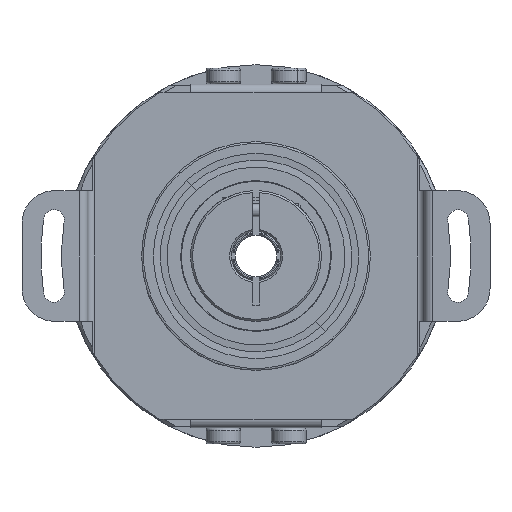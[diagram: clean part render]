
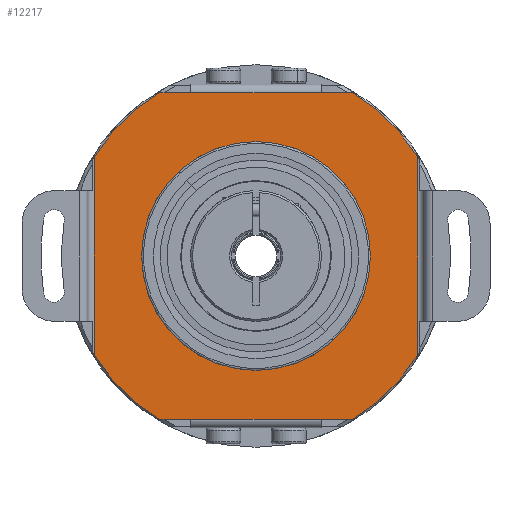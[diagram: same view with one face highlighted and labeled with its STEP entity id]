
A CAD part, front view. The second image highlights one B-rep face of the part: STEP entity #12217.
In plain terms, the highlighted planar face has unit normal (0, -1, 0).
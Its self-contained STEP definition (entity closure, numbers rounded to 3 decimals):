
#507 = VECTOR ( 'NONE', #664, 1000. ) ;
#664 = DIRECTION ( 'NONE',  ( 1., 0., 0. ) ) ;
#854 = ORIENTED_EDGE ( 'NONE', *, *, #2656, .T. ) ;
#866 = ORIENTED_EDGE ( 'NONE', *, *, #23199, .F. ) ;
#1338 = CARTESIAN_POINT ( 'NONE',  ( 0., -4.194, 0. ) ) ;
#2490 = EDGE_CURVE ( 'NONE', #22385, #25964, #31996, .T. ) ;
#2656 = EDGE_CURVE ( 'NONE', #4003, #10606, #9931, .T. ) ;
#2761 = EDGE_CURVE ( 'NONE', #14680, #10309, #7663, .T. ) ;
#3049 = DIRECTION ( 'NONE',  ( 0., -1., 0. ) ) ;
#3081 = LINE ( 'NONE', #8332, #21991 ) ;
#3347 = EDGE_CURVE ( 'NONE', #18289, #25964, #3081, .T. ) ;
#3895 = CARTESIAN_POINT ( 'NONE',  ( 10., -4.194, 25. ) ) ;
#4003 = VERTEX_POINT ( 'NONE', #5283 ) ;
#4024 = CARTESIAN_POINT ( 'NONE',  ( 0., -4.194, 0. ) ) ;
#4339 = AXIS2_PLACEMENT_3D ( 'NONE', #30444, #36180, #27706 ) ;
#4366 = EDGE_CURVE ( 'NONE', #13780, #19641, #19183, .T. ) ;
#4691 = VECTOR ( 'NONE', #19799, 1000. ) ;
#5283 = CARTESIAN_POINT ( 'NONE',  ( -24.7, -4.194, -15.196 ) ) ;
#5299 = EDGE_CURVE ( 'NONE', #18289, #19641, #5545, .T. ) ;
#5545 = LINE ( 'NONE', #21260, #22715 ) ;
#6249 = AXIS2_PLACEMENT_3D ( 'NONE', #11563, #3049, #16984 ) ;
#6833 = EDGE_CURVE ( 'NONE', #4003, #33997, #33241, .T. ) ;
#6860 = ORIENTED_EDGE ( 'NONE', *, *, #4366, .T. ) ;
#7031 = PLANE ( 'NONE',  #4339 ) ;
#7051 = DIRECTION ( 'NONE',  ( 0., 0., 1. ) ) ;
#7266 = EDGE_CURVE ( 'NONE', #17382, #14680, #11544, .T. ) ;
#7465 = FACE_BOUND ( 'NONE', #12933, .T. ) ;
#7663 = LINE ( 'NONE', #19115, #35559 ) ;
#8118 = DIRECTION ( 'NONE',  ( -1., 0., 0. ) ) ;
#8332 = CARTESIAN_POINT ( 'NONE',  ( -5., -4.194, 25. ) ) ;
#8992 = VECTOR ( 'NONE', #8118, 1000. ) ;
#9874 = CARTESIAN_POINT ( 'NONE',  ( 24.7, -4.194, -15.196 ) ) ;
#9931 = CIRCLE ( 'NONE', #35429, 29. ) ;
#9996 = CARTESIAN_POINT ( 'NONE',  ( 0., -4.194, 17.5 ) ) ;
#10174 = DIRECTION ( 'NONE',  ( 0., 0., -1. ) ) ;
#10309 = VERTEX_POINT ( 'NONE', #24989 ) ;
#10606 = VERTEX_POINT ( 'NONE', #20803 ) ;
#11349 = DIRECTION ( 'NONE',  ( 0., 0., -1. ) ) ;
#11507 = FACE_OUTER_BOUND ( 'NONE', #27624, .T. ) ;
#11544 = CIRCLE ( 'NONE', #29167, 29. ) ;
#11563 = CARTESIAN_POINT ( 'NONE',  ( 0., -4.194, 0. ) ) ;
#12092 = EDGE_CURVE ( 'NONE', #20893, #22719, #23736, .T. ) ;
#12188 = EDGE_CURVE ( 'NONE', #33997, #22385, #34465, .T. ) ;
#12217 = ADVANCED_FACE ( 'NONE', ( #11507, #7465 ), #7031, .T. ) ;
#12326 = DIRECTION ( 'NONE',  ( 0., 0., -1. ) ) ;
#12933 = EDGE_LOOP ( 'NONE', ( #34027, #13343 ) ) ;
#13200 = CARTESIAN_POINT ( 'NONE',  ( 0., -4.194, 0. ) ) ;
#13343 = ORIENTED_EDGE ( 'NONE', *, *, #12092, .F. ) ;
#13684 = VECTOR ( 'NONE', #7051, 1000. ) ;
#13780 = VERTEX_POINT ( 'NONE', #19933 ) ;
#13893 = DIRECTION ( 'NONE',  ( -1., 0., 0. ) ) ;
#14347 = CIRCLE ( 'NONE', #6249, 17.5 ) ;
#14680 = VERTEX_POINT ( 'NONE', #17026 ) ;
#14914 = DIRECTION ( 'NONE',  ( 0., 0., 1. ) ) ;
#15062 = EDGE_CURVE ( 'NONE', #17382, #13780, #29910, .T. ) ;
#15078 = ORIENTED_EDGE ( 'NONE', *, *, #3347, .T. ) ;
#16043 = ORIENTED_EDGE ( 'NONE', *, *, #15062, .T. ) ;
#16984 = DIRECTION ( 'NONE',  ( 0., 0., -1. ) ) ;
#17026 = CARTESIAN_POINT ( 'NONE',  ( 14.697, -4.194, -25. ) ) ;
#17382 = VERTEX_POINT ( 'NONE', #9874 ) ;
#18059 = DIRECTION ( 'NONE',  ( 1., 0., 0. ) ) ;
#18289 = VERTEX_POINT ( 'NONE', #3895 ) ;
#18978 = DIRECTION ( 'NONE',  ( 0., 0., 1. ) ) ;
#19115 = CARTESIAN_POINT ( 'NONE',  ( 10., -4.194, -25. ) ) ;
#19183 = CIRCLE ( 'NONE', #21062, 29. ) ;
#19641 = VERTEX_POINT ( 'NONE', #25880 ) ;
#19799 = DIRECTION ( 'NONE',  ( -1., 0., 0. ) ) ;
#19845 = CARTESIAN_POINT ( 'NONE',  ( 0., -4.194, -17.5 ) ) ;
#19933 = CARTESIAN_POINT ( 'NONE',  ( 24.7, -4.194, 15.196 ) ) ;
#20039 = CARTESIAN_POINT ( 'NONE',  ( 0., -4.194, 0. ) ) ;
#20327 = ORIENTED_EDGE ( 'NONE', *, *, #2761, .F. ) ;
#20803 = CARTESIAN_POINT ( 'NONE',  ( -14.697, -4.194, -25. ) ) ;
#20893 = VERTEX_POINT ( 'NONE', #9996 ) ;
#21062 = AXIS2_PLACEMENT_3D ( 'NONE', #1338, #24112, #18059 ) ;
#21090 = VECTOR ( 'NONE', #14914, 1000. ) ;
#21260 = CARTESIAN_POINT ( 'NONE',  ( 25., -4.194, 25. ) ) ;
#21435 = AXIS2_PLACEMENT_3D ( 'NONE', #13200, #24288, #18978 ) ;
#21683 = EDGE_CURVE ( 'NONE', #22719, #20893, #14347, .T. ) ;
#21991 = VECTOR ( 'NONE', #13893, 1000. ) ;
#22102 = CARTESIAN_POINT ( 'NONE',  ( -25., -4.194, -25. ) ) ;
#22289 = DIRECTION ( 'NONE',  ( -1., 0., 0. ) ) ;
#22385 = VERTEX_POINT ( 'NONE', #26444 ) ;
#22715 = VECTOR ( 'NONE', #33061, 1000. ) ;
#22719 = VERTEX_POINT ( 'NONE', #19845 ) ;
#22849 = ORIENTED_EDGE ( 'NONE', *, *, #2490, .F. ) ;
#23002 = LINE ( 'NONE', #25384, #8992 ) ;
#23199 = EDGE_CURVE ( 'NONE', #36500, #10606, #27677, .T. ) ;
#23736 = CIRCLE ( 'NONE', #29859, 17.5 ) ;
#24112 = DIRECTION ( 'NONE',  ( 0., -1., 0. ) ) ;
#24230 = ORIENTED_EDGE ( 'NONE', *, *, #7266, .F. ) ;
#24288 = DIRECTION ( 'NONE',  ( 0., 1., 0. ) ) ;
#24989 = CARTESIAN_POINT ( 'NONE',  ( 10., -4.194, -25. ) ) ;
#25384 = CARTESIAN_POINT ( 'NONE',  ( -5., -4.194, -25. ) ) ;
#25880 = CARTESIAN_POINT ( 'NONE',  ( 14.697, -4.194, 25. ) ) ;
#25964 = VERTEX_POINT ( 'NONE', #32792 ) ;
#26212 = DIRECTION ( 'NONE',  ( 0., 1., 0. ) ) ;
#26444 = CARTESIAN_POINT ( 'NONE',  ( -14.697, -4.194, 25. ) ) ;
#27034 = ORIENTED_EDGE ( 'NONE', *, *, #6833, .F. ) ;
#27096 = DIRECTION ( 'NONE',  ( 0., -1., 0. ) ) ;
#27318 = ORIENTED_EDGE ( 'NONE', *, *, #5299, .F. ) ;
#27403 = CARTESIAN_POINT ( 'NONE',  ( -24.7, -4.194, 15.196 ) ) ;
#27624 = EDGE_LOOP ( 'NONE', ( #27034, #854, #866, #37001, #20327, #24230, #16043, #6860, #27318, #15078, #22849, #34389 ) ) ;
#27677 = LINE ( 'NONE', #22102, #4691 ) ;
#27706 = DIRECTION ( 'NONE',  ( 0., 0., -1. ) ) ;
#29167 = AXIS2_PLACEMENT_3D ( 'NONE', #20039, #26212, #11349 ) ;
#29859 = AXIS2_PLACEMENT_3D ( 'NONE', #4024, #27096, #12326 ) ;
#29910 = LINE ( 'NONE', #35612, #13684 ) ;
#30082 = CARTESIAN_POINT ( 'NONE',  ( 0., -4.194, 0. ) ) ;
#30444 = CARTESIAN_POINT ( 'NONE',  ( -5., -4.194, -35.2 ) ) ;
#31599 = CARTESIAN_POINT ( 'NONE',  ( -10., -4.194, -25. ) ) ;
#31996 = LINE ( 'NONE', #35346, #507 ) ;
#32139 = CARTESIAN_POINT ( 'NONE',  ( -24.7, -4.194, -35.2 ) ) ;
#32682 = EDGE_CURVE ( 'NONE', #10309, #36500, #23002, .T. ) ;
#32792 = CARTESIAN_POINT ( 'NONE',  ( -10., -4.194, 25. ) ) ;
#33061 = DIRECTION ( 'NONE',  ( 1., 0., 0. ) ) ;
#33205 = DIRECTION ( 'NONE',  ( 0., -1., 0. ) ) ;
#33241 = LINE ( 'NONE', #32139, #21090 ) ;
#33997 = VERTEX_POINT ( 'NONE', #27403 ) ;
#34027 = ORIENTED_EDGE ( 'NONE', *, *, #21683, .F. ) ;
#34389 = ORIENTED_EDGE ( 'NONE', *, *, #12188, .F. ) ;
#34465 = CIRCLE ( 'NONE', #21435, 29. ) ;
#35346 = CARTESIAN_POINT ( 'NONE',  ( -10., -4.194, 25. ) ) ;
#35429 = AXIS2_PLACEMENT_3D ( 'NONE', #30082, #33205, #10174 ) ;
#35559 = VECTOR ( 'NONE', #22289, 1000. ) ;
#35612 = CARTESIAN_POINT ( 'NONE',  ( 24.7, -4.194, -35.2 ) ) ;
#36180 = DIRECTION ( 'NONE',  ( 0., -1., 0. ) ) ;
#36500 = VERTEX_POINT ( 'NONE', #31599 ) ;
#37001 = ORIENTED_EDGE ( 'NONE', *, *, #32682, .F. ) ;
